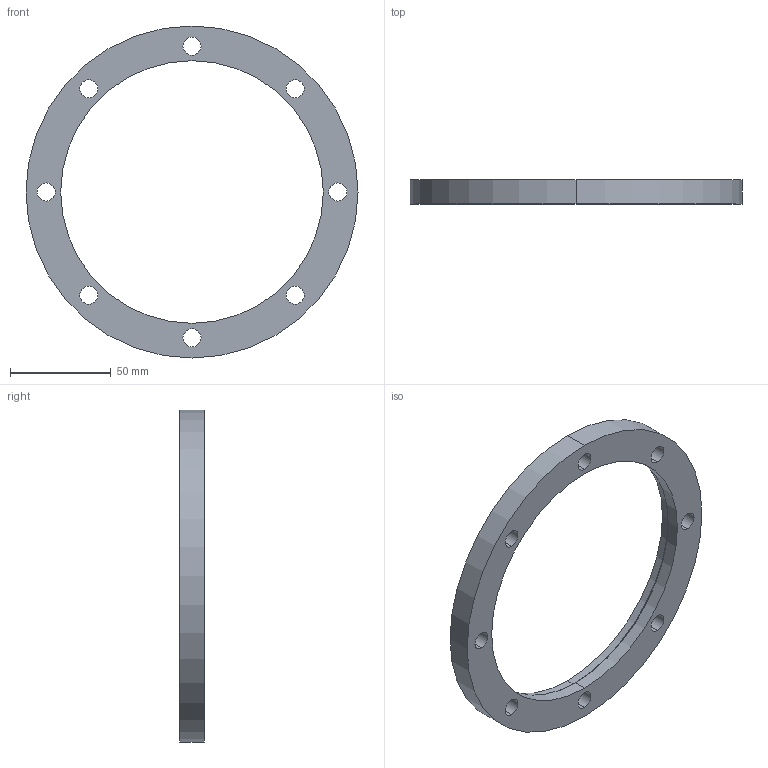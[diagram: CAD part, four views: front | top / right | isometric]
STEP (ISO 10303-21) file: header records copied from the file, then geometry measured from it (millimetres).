
FILE_DESCRIPTION (( 'STEP AP214' ), '1' );
FILE_NAME ('W5UEF100.STEP', '2021-01-25T16:30:09', ( '' ), ( '' ), 'SwSTEP 2.0', 'SolidWorks 2020', '' );
FILE_SCHEMA (( 'AUTOMOTIVE_DESIGN' ));
Length unit declared in the file: millimetre
Products named in the file (1): W5UEF100
Bounding box: 165 x 12 x 165 mm (x, y, z)
Volume: 86641.1 mm3; surface area: 28632.8 mm2
Topology: 1 solids, 1 shells, 27 faces, 70 edges, 46 vertices
Faces by surface type: cylinder 22, plane 3, torus 2
Entity records: 926 total; most frequent: DIRECTION 174, CARTESIAN_POINT 144, ORIENTED_EDGE 140, AXIS2_PLACEMENT_3D 76, EDGE_CURVE 70, CIRCLE 48, VERTEX_POINT 46, EDGE_LOOP 46
